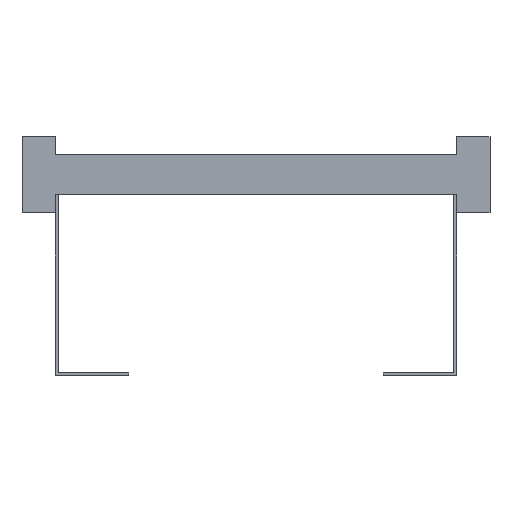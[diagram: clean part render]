
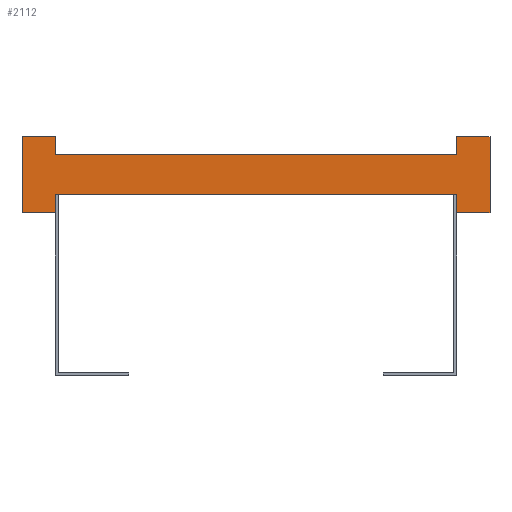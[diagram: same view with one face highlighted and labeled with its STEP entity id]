
A CAD part, front view. The second image highlights one B-rep face of the part: STEP entity #2112.
In plain terms, the highlighted planar face has unit normal (0, -1, 0).
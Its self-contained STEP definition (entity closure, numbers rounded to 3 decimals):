
#1=DIRECTION('',(0.,0.,1.));
#2=VECTOR('',#1,13.5);
#3=CARTESIAN_POINT('',(150.,0.,-28.5));
#4=LINE('',#3,#2);
#5=DIRECTION('',(0.,0.,-1.));
#6=VECTOR('',#5,13.5);
#7=CARTESIAN_POINT('',(-150.,0.,-15.));
#8=LINE('',#7,#6);
#9=DIRECTION('',(-1.,0.,0.));
#10=VECTOR('',#9,25.);
#11=CARTESIAN_POINT('',(-150.,0.,-28.5));
#12=LINE('',#11,#10);
#13=DIRECTION('',(0.,0.,1.));
#14=VECTOR('',#13,57.);
#15=CARTESIAN_POINT('',(-175.,0.,-28.5));
#16=LINE('',#15,#14);
#17=DIRECTION('',(1.,0.,0.));
#18=VECTOR('',#17,25.);
#19=CARTESIAN_POINT('',(-175.,0.,28.5));
#20=LINE('',#19,#18);
#21=DIRECTION('',(0.,0.,-1.));
#22=VECTOR('',#21,13.5);
#23=CARTESIAN_POINT('',(-150.,0.,28.5));
#24=LINE('',#23,#22);
#25=DIRECTION('',(0.,0.,1.));
#26=VECTOR('',#25,13.5);
#27=CARTESIAN_POINT('',(150.,0.,15.));
#28=LINE('',#27,#26);
#29=DIRECTION('',(1.,0.,0.));
#30=VECTOR('',#29,25.);
#31=CARTESIAN_POINT('',(150.,0.,28.5));
#32=LINE('',#31,#30);
#33=DIRECTION('',(0.,0.,-1.));
#34=VECTOR('',#33,57.);
#35=CARTESIAN_POINT('',(175.,0.,28.5));
#36=LINE('',#35,#34);
#37=DIRECTION('',(-1.,0.,0.));
#38=VECTOR('',#37,25.);
#39=CARTESIAN_POINT('',(175.,0.,-28.5));
#40=LINE('',#39,#38);
#1553=DIRECTION('',(1.,0.,0.));
#1554=VECTOR('',#1553,300.);
#1555=CARTESIAN_POINT('',(-150.,0.,-15.));
#1556=LINE('',#1555,#1554);
#1565=DIRECTION('',(1.,0.,0.));
#1566=VECTOR('',#1565,300.);
#1567=CARTESIAN_POINT('',(-150.,0.,15.));
#1568=LINE('',#1567,#1566);
#1569=CARTESIAN_POINT('',(-175.,0.,28.5));
#1570=CARTESIAN_POINT('',(-150.,0.,28.5));
#1571=VERTEX_POINT('',#1569);
#1572=VERTEX_POINT('',#1570);
#1573=CARTESIAN_POINT('',(-150.,0.,-28.5));
#1574=CARTESIAN_POINT('',(-175.,0.,-28.5));
#1575=VERTEX_POINT('',#1573);
#1576=VERTEX_POINT('',#1574);
#1577=CARTESIAN_POINT('',(175.,0.,28.5));
#1578=CARTESIAN_POINT('',(175.,0.,-28.5));
#1579=VERTEX_POINT('',#1577);
#1580=VERTEX_POINT('',#1578);
#1581=CARTESIAN_POINT('',(150.,0.,-28.5));
#1582=VERTEX_POINT('',#1581);
#1583=CARTESIAN_POINT('',(150.,0.,28.5));
#1584=VERTEX_POINT('',#1583);
#1601=CARTESIAN_POINT('',(-150.,0.,-15.));
#1603=VERTEX_POINT('',#1601);
#1605=CARTESIAN_POINT('',(-150.,0.,15.));
#1607=VERTEX_POINT('',#1605);
#1609=CARTESIAN_POINT('',(150.,0.,-15.));
#1611=VERTEX_POINT('',#1609);
#1613=CARTESIAN_POINT('',(150.,0.,15.));
#1615=VERTEX_POINT('',#1613);
#2081=CARTESIAN_POINT('',(0.,0.,0.));
#2082=DIRECTION('',(0.,1.,0.));
#2083=DIRECTION('',(1.,0.,0.));
#2084=AXIS2_PLACEMENT_3D('',#2081,#2082,#2083);
#2085=PLANE('',#2084);
#2087=ORIENTED_EDGE('',*,*,#2086,.T.);
#2089=ORIENTED_EDGE('',*,*,#2088,.F.);
#2091=ORIENTED_EDGE('',*,*,#2090,.T.);
#2093=ORIENTED_EDGE('',*,*,#2092,.T.);
#2095=ORIENTED_EDGE('',*,*,#2094,.T.);
#2097=ORIENTED_EDGE('',*,*,#2096,.T.);
#2099=ORIENTED_EDGE('',*,*,#2098,.T.);
#2101=ORIENTED_EDGE('',*,*,#2100,.T.);
#2103=ORIENTED_EDGE('',*,*,#2102,.T.);
#2105=ORIENTED_EDGE('',*,*,#2104,.T.);
#2107=ORIENTED_EDGE('',*,*,#2106,.T.);
#2109=ORIENTED_EDGE('',*,*,#2108,.T.);
#2110=EDGE_LOOP('',(#2087,#2089,#2091,#2093,#2095,#2097,#2099,#2101,#2103,#2105,
#2107,#2109));
#2111=FACE_OUTER_BOUND('',#2110,.F.);
#2112=ADVANCED_FACE('',(#2111),#2085,.F.);
#2086=EDGE_CURVE('',#1582,#1611,#4,.T.);
#2088=EDGE_CURVE('',#1603,#1611,#1556,.T.);
#2090=EDGE_CURVE('',#1603,#1575,#8,.T.);
#2092=EDGE_CURVE('',#1575,#1576,#12,.T.);
#2094=EDGE_CURVE('',#1576,#1571,#16,.T.);
#2096=EDGE_CURVE('',#1571,#1572,#20,.T.);
#2098=EDGE_CURVE('',#1572,#1607,#24,.T.);
#2100=EDGE_CURVE('',#1607,#1615,#1568,.T.);
#2102=EDGE_CURVE('',#1615,#1584,#28,.T.);
#2104=EDGE_CURVE('',#1584,#1579,#32,.T.);
#2106=EDGE_CURVE('',#1579,#1580,#36,.T.);
#2108=EDGE_CURVE('',#1580,#1582,#40,.T.);
